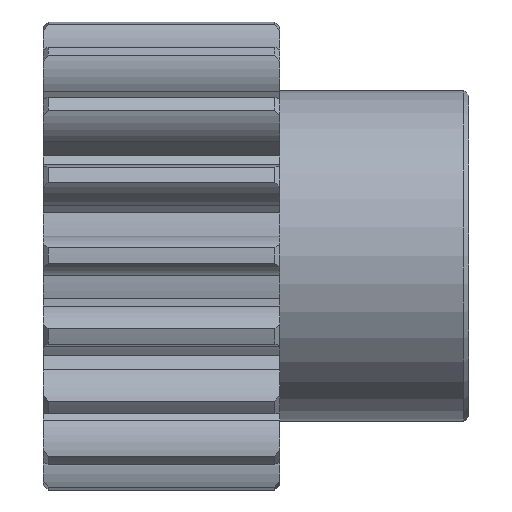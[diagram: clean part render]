
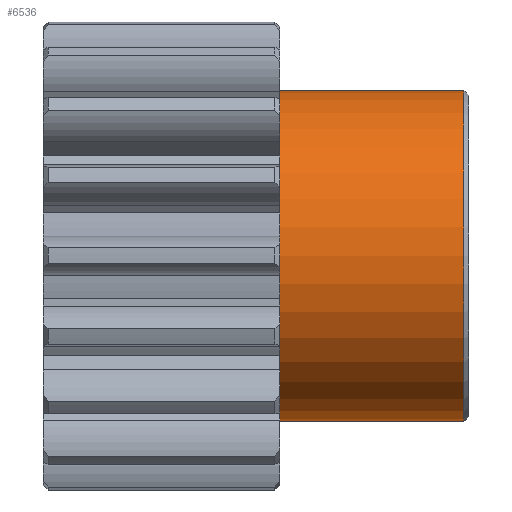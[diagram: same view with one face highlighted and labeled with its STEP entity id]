
A CAD part, top view. The second image highlights one B-rep face of the part: STEP entity #6536.
In plain terms, the highlighted cylindrical face has radius 17.5 mm (diameter 35 mm), a full revolution.
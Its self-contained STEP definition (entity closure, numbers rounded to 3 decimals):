
#93=FACE_BOUND('',#1285,.T.);
#507=CIRCLE('',#7002,17.5);
#509=CIRCLE('',#7005,17.5);
#583=CYLINDRICAL_SURFACE('',#7004,17.5);
#923=FACE_OUTER_BOUND('',#1284,.T.);
#1284=EDGE_LOOP('',(#5906));
#1285=EDGE_LOOP('',(#5907));
#3118=VERTEX_POINT('',#11659);
#3120=VERTEX_POINT('',#11664);
#4086=EDGE_CURVE('',#3118,#3118,#507,.T.);
#4088=EDGE_CURVE('',#3120,#3120,#509,.T.);
#5906=ORIENTED_EDGE('',*,*,#4088,.F.);
#5907=ORIENTED_EDGE('',*,*,#4086,.F.);
#6536=ADVANCED_FACE('',(#923,#93),#583,.T.);
#7002=AXIS2_PLACEMENT_3D('',#11660,#8522,#8523);
#7004=AXIS2_PLACEMENT_3D('',#11663,#8526,#8527);
#7005=AXIS2_PLACEMENT_3D('',#11665,#8528,#8529);
#8522=DIRECTION('center_axis',(1.,0.,0.));
#8523=DIRECTION('ref_axis',(0.,0.,1.));
#8526=DIRECTION('center_axis',(1.,0.,0.));
#8527=DIRECTION('ref_axis',(0.,0.,1.));
#8528=DIRECTION('center_axis',(-1.,0.,0.));
#8529=DIRECTION('ref_axis',(0.,0.,1.));
#11659=CARTESIAN_POINT('',(44.5,0.,-17.5));
#11660=CARTESIAN_POINT('Origin',(44.5,0.,0.));
#11663=CARTESIAN_POINT('Origin',(25.,0.,0.));
#11664=CARTESIAN_POINT('',(25.,0.,-17.5));
#11665=CARTESIAN_POINT('Origin',(25.,0.,0.));
